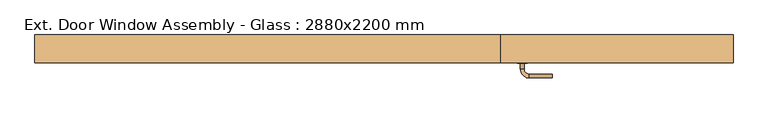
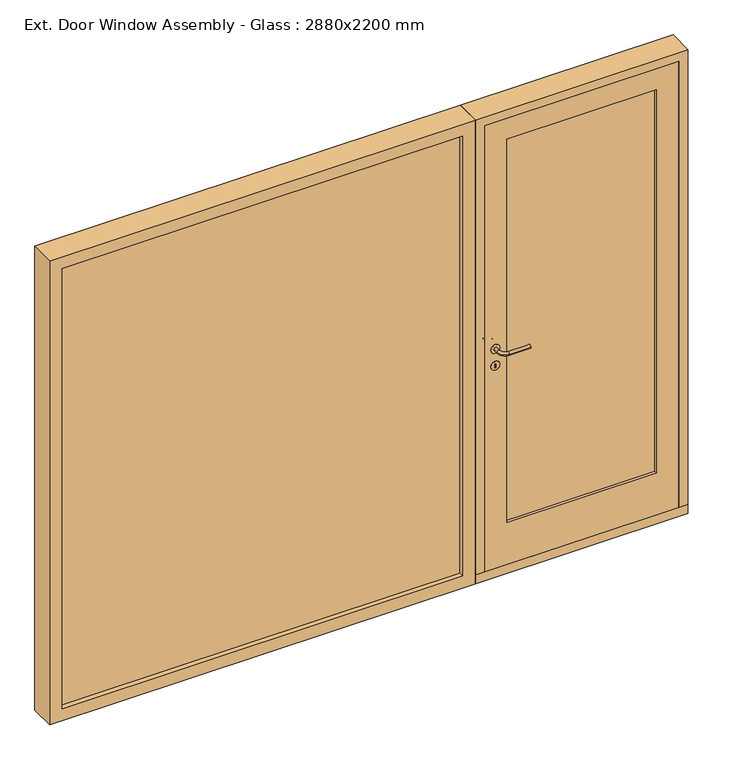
"""IFC4 building model written with IfcOpenShell, lengths in millimetres: door geometry, Ext. Door Window Assembly - Glass : 2880x2200 mm."""

from ifc_helpers import new_model, si_unit, point, frame, frame_2d, origin, place, context, project, spatial, polyline, circle_curve, ellipse_curve, trimmed, segment, composite_curve, outline, extrude, faceted_brep, source, transform, mapped, element, save
from ifc_brep_helpers import plane_surface, cylinder_surface, revolved_surface, advanced_brep


def ext_door_window_assembly_glass_2880x2200_mm_ebeafb6b(model_context):
    return source(origin(), model_context, "Body", "SolidModel", [
        extrude(outline(polyline([(2212.0, 480.0), (2212.0, -1440.0), (0.0, -1440.0), (0.0, 480.0), (2212.0, 480.0)]), holes=[polyline([(2155.0, -1383.0), (2155.0, 423.0), (57.0, 423.0), (57.0, -1383.0), (2155.0, -1383.0)])]), frame((0.0, -190.0, 0.0), z_axis=(0.0, 1.0, 0.0), x_axis=(0.0, 0.0, 1.0)), (0.0, 0.0, 1.0), 115.0),
        extrude(outline(polyline([(423.0, -140.0), (423.0, -168.0), (-1383.0, -168.0), (-1383.0, -140.0), (423.0, -140.0)])), frame((0.0, 0.0, 57.0), z_axis=(0.0, 0.0, 1.0), x_axis=(1.0, 0.0, 0.0)), (0.0, 0.0, 1.0), 2098.0),
        extrude(outline(composite_curve([segment(trimmed(circle_curve(frame_2d((1090.0, 570.0)), 20.0), [point((1070.0, 570.0))], [point((1110.0, 570.0))], False, "CARTESIAN"), True, "CONTINUOUS"), segment(trimmed(circle_curve(frame_2d((1090.0, 570.0)), 20.0), [point((1110.0, 570.0))], [point((1070.0, 570.0))], False, "CARTESIAN"), True, "CONTINUOUS")], self_intersect=False)), frame((0.0, -192.0, 0.0), z_axis=(0.0, 1.0, 0.0), x_axis=(0.0, 0.0, 1.0)), (0.0, 0.0, 1.0), 2.0),
        advanced_brep(
        [(600.0, -237.0, 1090.0), (695.0, -237.0, 1090.0), (695.0, -252.0, 1090.0), (600.0, -252.0, 1090.0), (577.5, -192.0, 1090.0), (577.5, -214.5, 1090.0), (562.5, -214.5, 1090.0), (562.5, -192.0, 1090.0)],
        [
            (0, 1),
            (1, 2, circle_curve(frame((695.0, -244.5, 1090.0), z_axis=(-1.0, 0.0, 0.0), x_axis=(0.0, 1.0, 0.0)), 7.5)),
            (2, 3),
            (3, 0, circle_curve(frame((600.0, -244.5, 1090.0), z_axis=(1.0, 0.0, 0.0), x_axis=(0.0, 1.0, 0.0)), 7.5)),
            (2, 1, circle_curve(frame((695.0, -244.5, 1090.0), z_axis=(-1.0, 0.0, 0.0), x_axis=(0.0, 1.0, 0.0)), 7.5)),
            (0, 3, circle_curve(frame((600.0, -244.5, 1090.0), z_axis=(1.0, 0.0, 0.0), x_axis=(0.0, 1.0, 0.0)), 7.5)),
            (4, 5),
            (5, 6, circle_curve(frame((570.0, -214.5, 1090.0), z_axis=(0.0, 1.0, 0.0), x_axis=(1.0, 0.0, 0.0)), 7.5)),
            (6, 7),
            (7, 4, circle_curve(frame((570.0, -192.0, 1090.0), z_axis=(0.0, -1.0, 0.0), x_axis=(1.0, 0.0, 0.0)), 7.5)),
            (3, 6, circle_curve(frame((600.0, -214.5, 1090.0), z_axis=(0.0, 0.0, -1.0), x_axis=(-1.0, 0.0, 0.0)), 37.5)),
            (5, 0, circle_curve(frame((600.0, -214.5, 1090.0), z_axis=(0.0, 0.0, 1.0), x_axis=(-1.0, 0.0, 0.0)), 22.5)),
            (7, 4, circle_curve(frame((570.0, -192.0, 1090.0), z_axis=(0.0, 1.0, 0.0), x_axis=(1.0, 0.0, 0.0)), 7.5)),
            (6, 5, circle_curve(frame((570.0, -214.5, 1090.0), z_axis=(0.0, 1.0, 0.0), x_axis=(1.0, 0.0, 0.0)), 7.5)),
        ],
        [
            cylinder_surface(frame((600.0, -244.5, 1090.0), z_axis=(-1.0, 0.0, 0.0), x_axis=(0.0, 1.0, 0.0)), 7.5),
            cylinder_surface(frame((570.0, -192.0, 1090.0), z_axis=(0.0, 1.0, 0.0), x_axis=(1.0, 0.0, 0.0)), 7.5),
            revolved_surface(trimmed(ellipse_curve(frame((570.0, -214.5, 1090.0), z_axis=(0.0, -1.0, 0.0), x_axis=(1.0, 0.0, 0.0)), 7.5, 7.5), [point((562.5, -214.5, 1090.0))], [point((577.5, -214.5, 1090.0))], True, "CARTESIAN"), (600.0, -214.5, 1090.0), (0.0, 0.0, -1.0)),
            plane_surface(frame((570.0, -192.0, 1090.0), z_axis=(0.0, 1.0, 0.0), x_axis=(0.0, 0.0, -1.0))),
            revolved_surface(trimmed(ellipse_curve(frame((570.0, -214.5, 1090.0), z_axis=(0.0, -1.0, 0.0), x_axis=(1.0, 0.0, 0.0)), 7.5, 7.5), [point((577.5, -214.5, 1090.0))], [point((562.5, -214.5, 1090.0))], True, "CARTESIAN"), (600.0, -214.5, 1090.0), (0.0, 0.0, -1.0)),
            plane_surface(frame((695.0, -244.5, 1090.0), z_axis=(1.0, 0.0, 0.0), x_axis=(0.0, 0.0, -1.0))),
        ],
        [
            (0, [[1, 2, 3, 4]]),
            (0, [[-3, 5, -1, 6]]),
            (1, [[7, 8, 9, 10]]),
            (2, [[-4, 11, -8, 12]]),
            (3, [[13, -10]]),
            (1, [[-9, 14, -7, -13]]),
            (4, [[-6, -12, -14, -11]]),
            (5, [[-2, -5]]),
        ],
    ),
        extrude(outline(composite_curve([segment(trimmed(circle_curve(frame_2d((1010.0, 570.0)), 20.0), [point((990.0, 570.0))], [point((1030.0, 570.0))], False, "CARTESIAN"), True, "CONTINUOUS"), segment(trimmed(circle_curve(frame_2d((1010.0, 570.0)), 20.0), [point((1030.0, 570.0))], [point((990.0, 570.0))], False, "CARTESIAN"), True, "CONTINUOUS")], self_intersect=False), holes=[composite_curve([segment(trimmed(circle_curve(frame_2d((1015.0, 570.0)), 3.0), [point((1012.4019238, 568.5))], [point((1012.4019238, 571.5))], True, "CARTESIAN"), True, "CONTINUOUS"), segment(polyline([(1012.4019238, 571.5), (1000.0, 571.5), (1000.0, 568.5), (1012.4019238, 568.5)]), True, "CONTINUOUS")], self_intersect=False)]), frame((0.0, -192.0, 0.0), z_axis=(0.0, 1.0, 0.0), x_axis=(0.0, 0.0, 1.0)), (0.0, 0.0, 1.0), 2.0),
        extrude(outline(composite_curve([segment(trimmed(circle_curve(frame_2d((1090.0, 570.0)), 20.0), [point((1070.0, 570.0))], [point((1110.0, 570.0))], False, "CARTESIAN"), True, "CONTINUOUS"), segment(trimmed(circle_curve(frame_2d((1090.0, 570.0)), 20.0), [point((1110.0, 570.0))], [point((1070.0, 570.0))], False, "CARTESIAN"), True, "CONTINUOUS")], self_intersect=False)), frame((0.0, -140.0, 0.0), z_axis=(0.0, 1.0, 0.0), x_axis=(0.0, 0.0, 1.0)), (0.0, 0.0, 1.0), 2.0),
        advanced_brep(
        [(600.0, -93.0, 1090.0), (600.0, -78.0, 1090.0), (695.0, -78.0, 1090.0), (695.0, -93.0, 1090.0), (577.5, -138.0, 1090.0), (562.5, -138.0, 1090.0), (562.5, -115.5, 1090.0), (577.5, -115.5, 1090.0)],
        [
            (0, 1, circle_curve(frame((600.0, -85.5, 1090.0), z_axis=(1.0, 0.0, 0.0), x_axis=(0.0, -1.0, 0.0)), 7.5)),
            (1, 2),
            (2, 3, circle_curve(frame((695.0, -85.5, 1090.0), z_axis=(-1.0, 0.0, 0.0), x_axis=(0.0, -1.0, 0.0)), 7.5)),
            (3, 0),
            (1, 0, circle_curve(frame((600.0, -85.5, 1090.0), z_axis=(1.0, 0.0, 0.0), x_axis=(0.0, -1.0, 0.0)), 7.5)),
            (3, 2, circle_curve(frame((695.0, -85.5, 1090.0), z_axis=(-1.0, 0.0, 0.0), x_axis=(0.0, -1.0, 0.0)), 7.5)),
            (4, 5, circle_curve(frame((570.0, -138.0, 1090.0), z_axis=(0.0, 1.0, 0.0), x_axis=(1.0, 0.0, 0.0)), 7.5)),
            (5, 6),
            (6, 7, circle_curve(frame((570.0, -115.5, 1090.0), z_axis=(0.0, -1.0, 0.0), x_axis=(1.0, 0.0, 0.0)), 7.5)),
            (7, 4),
            (0, 7, circle_curve(frame((600.0, -115.5, 1090.0), z_axis=(0.0, 0.0, 1.0), x_axis=(-1.0, 0.0, 0.0)), 22.5)),
            (6, 1, circle_curve(frame((600.0, -115.5, 1090.0), z_axis=(0.0, 0.0, -1.0), x_axis=(-1.0, 0.0, 0.0)), 37.5)),
            (4, 5, circle_curve(frame((570.0, -138.0, 1090.0), z_axis=(0.0, -1.0, 0.0), x_axis=(1.0, 0.0, 0.0)), 7.5)),
            (7, 6, circle_curve(frame((570.0, -115.5, 1090.0), z_axis=(0.0, -1.0, 0.0), x_axis=(1.0, 0.0, 0.0)), 7.5)),
        ],
        [
            cylinder_surface(frame((600.0, -85.5, 1090.0), z_axis=(-1.0, 0.0, 0.0), x_axis=(0.0, -1.0, 0.0)), 7.5),
            cylinder_surface(frame((570.0, -138.0, 1090.0), z_axis=(0.0, -1.0, 0.0), x_axis=(1.0, 0.0, 0.0)), 7.5),
            revolved_surface(trimmed(ellipse_curve(frame((570.0, -115.5, 1090.0), z_axis=(0.0, -1.0, 0.0), x_axis=(1.0, 0.0, 0.0)), 7.5, 7.5), [point((562.5, -115.5, 1090.0))], [point((577.5, -115.5, 1090.0))], True, "CARTESIAN"), (600.0, -115.5, 1090.0), (0.0, 0.0, -1.0)),
            plane_surface(frame((570.0, -138.0, 1090.0), z_axis=(0.0, -1.0, 0.0), x_axis=(0.0, 0.0, -1.0))),
            revolved_surface(trimmed(ellipse_curve(frame((570.0, -115.5, 1090.0), z_axis=(0.0, -1.0, 0.0), x_axis=(1.0, 0.0, 0.0)), 7.5, 7.5), [point((577.5, -115.5, 1090.0))], [point((562.5, -115.5, 1090.0))], True, "CARTESIAN"), (600.0, -115.5, 1090.0), (0.0, 0.0, -1.0)),
            plane_surface(frame((695.0, -85.5, 1090.0), z_axis=(1.0, 0.0, 0.0), x_axis=(0.0, 0.0, -1.0))),
        ],
        [
            (0, [[1, 2, 3, 4]]),
            (0, [[5, -4, 6, -2]]),
            (1, [[7, 8, 9, 10]]),
            (2, [[11, -9, 12, -1]]),
            (3, [[-7, 13]]),
            (1, [[-13, -10, 14, -8]]),
            (4, [[-12, -14, -11, -5]]),
            (5, [[-6, -3]]),
        ],
    ),
        extrude(outline(composite_curve([segment(trimmed(circle_curve(frame_2d((1010.0, 570.0)), 20.0), [point((990.0, 570.0))], [point((1030.0, 570.0))], False, "CARTESIAN"), True, "CONTINUOUS"), segment(trimmed(circle_curve(frame_2d((1010.0, 570.0)), 20.0), [point((1030.0, 570.0))], [point((990.0, 570.0))], False, "CARTESIAN"), True, "CONTINUOUS")], self_intersect=False), holes=[composite_curve([segment(trimmed(circle_curve(frame_2d((1015.0, 570.0)), 3.0), [point((1012.4019238, 568.5))], [point((1012.4019238, 571.5))], True, "CARTESIAN"), True, "CONTINUOUS"), segment(polyline([(1012.4019238, 571.5), (1000.0, 571.5), (1000.0, 568.5), (1012.4019238, 568.5)]), True, "CONTINUOUS")], self_intersect=False)]), frame((0.0, -140.0, 0.0), z_axis=(0.0, 1.0, 0.0), x_axis=(0.0, 0.0, 1.0)), (0.0, 0.0, 1.0), 2.0),
        extrude(outline(polyline([(1298.0, -154.0), (1298.0, -176.0), (622.0, -176.0), (622.0, -154.0), (1298.0, -154.0)])), frame((0.0, 0.0, 242.0), z_axis=(0.0, 0.0, 1.0), x_axis=(1.0, 0.0, 0.0)), (0.0, 0.0, 1.0), 1828.0),
        faceted_brep([(522.0, -140.0, 2170.0), (1398.0, -140.0, 2170.0), (1398.0, -190.0, 2170.0), (522.0, -190.0, 2170.0), (537.0, -140.0, 2155.0), (537.0, -75.0, 2155.0), (1383.0, -75.0, 2155.0), (1383.0, -140.0, 2155.0), (480.0, -190.0, 2212.0), (480.0, -190.0, 42.0), (522.0, -190.0, 42.0), (1398.0, -190.0, 42.0), (1440.0, -190.0, 42.0), (1440.0, -190.0, 2212.0), (1398.0, -140.0, 57.0), (1398.0, -140.0, 42.0), (1440.0, -140.0, 42.0), (1440.0, -140.0, 57.0), (1440.0, -75.0, 57.0), (1440.0, -75.0, 2212.0), (522.0, -140.0, 57.0), (537.0, -140.0, 57.0), (1383.0, -140.0, 57.0), (522.0, -140.0, 42.0), (480.0, -140.0, 42.0), (480.0, -140.0, 57.0), (1383.0, -75.0, 57.0), (480.0, -75.0, 57.0), (537.0, -75.0, 57.0), (480.0, -75.0, 2212.0)], [[[0, 1, 2, 3]], [[4, 5, 6, 7]], [[8, 9, 10, 3, 2, 11, 12, 13]], [[1, 14, 15, 11, 2]], [[13, 12, 16, 17, 18, 19]], [[0, 20, 21, 4, 7, 22, 14, 1]], [[3, 10, 23, 20, 0]], [[15, 14, 17, 16]], [[24, 25, 20, 23]], [[16, 12, 11, 15]], [[23, 10, 9, 24]], [[14, 22, 26, 18, 17]], [[25, 27, 28, 21, 20]], [[6, 26, 22, 7]], [[4, 21, 28, 5]], [[5, 28, 27, 29, 19, 18, 26, 6]], [[29, 27, 25, 24, 9, 8]], [[29, 8, 13, 19]]]),
        extrude(outline(polyline([(2170.0, 522.0), (42.0, 522.0), (42.0, 1398.0), (2170.0, 1398.0), (2170.0, 522.0)]), holes=[polyline([(2070.0, 622.0), (2070.0, 1298.0), (242.0, 1298.0), (242.0, 622.0), (2070.0, 622.0)])]), frame((0.0, -190.0, 0.0), z_axis=(0.0, 1.0, 0.0), x_axis=(0.0, 0.0, 1.0)), (0.0, 0.0, 1.0), 50.0),
        extrude(outline(polyline([(-190.0, 42.0), (-140.0, 42.0), (-140.0, 57.0), (-75.0, 57.0), (-75.0, 0.0), (-190.0, 0.0), (-190.0, 42.0)])), frame((480.0, 0.0, 0.0), z_axis=(1.0, 0.0, 0.0), x_axis=(0.0, 1.0, 0.0)), (0.0, 0.0, 1.0), 960.0),
    ])


if __name__ == "__main__":
    model = new_model("IFC4")
    model_context = context("Model", 3, world=origin())
    ifc_project = project(units=[si_unit("LENGTHUNIT", "METRE", prefix="MILLI")], contexts=[model_context])
    site = spatial("IfcSite", under=ifc_project)
    building = spatial("IfcBuilding", under=site)
    placement = place(None, origin())
    ext_door_window_assembly_glass_2880x2200_mm_shape = ext_door_window_assembly_glass_2880x2200_mm_ebeafb6b(model_context)
    element("IfcDoor", 1, ObjectType="Ext. Door Window Assembly - Glass : 2880x2200 mm", at=placement, inside=building, context=model_context, shape_type="MappedRepresentation", body=[
        mapped(ext_door_window_assembly_glass_2880x2200_mm_shape, transform((0.0, 0.0, 0.0), x_axis=(1.0, 0.0, 0.0), y_axis=(0.0, 1.0, 0.0), z_axis=(0.0, 0.0, 1.0))),
    ])
    save(model, "model.ifc")
